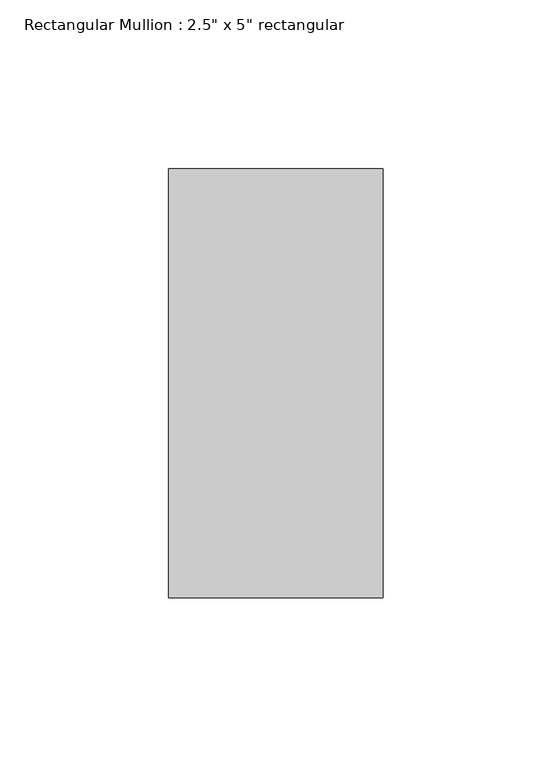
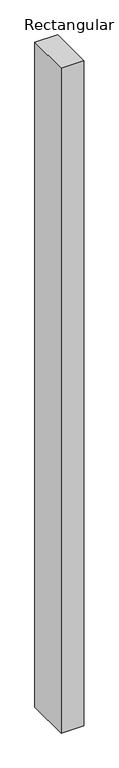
"""IFC4 building model written with IfcOpenShell, lengths in millimetres: member geometry."""

from ifc_helpers import new_model, si_unit, frame, origin, place, context, project, spatial, polyline, outline, extrude, source, transform, mapped, element, save


def member_9e90ae50(model_context):
    return source(origin(), model_context, "Body", "SweptSolid", [
        extrude(outline(polyline([(31.75, 63.5), (31.75, -63.5), (-31.75, -63.5), (-31.75, 63.5), (31.75, 63.5)])), frame((0.0, 0.0, -1968.5), z_axis=(0.0, 0.0, 1.0), x_axis=(1.0, 0.0, 0.0)), (0.0, 0.0, 1.0), 1968.5),
    ])


if __name__ == "__main__":
    model = new_model("IFC4")
    model_context = context("Model", 3, world=origin())
    ifc_project = project(units=[si_unit("LENGTHUNIT", "METRE", prefix="MILLI")], contexts=[model_context])
    site = spatial("IfcSite", under=ifc_project)
    building = spatial("IfcBuilding", under=site)
    placement = place(None, origin())
    member_shape = member_9e90ae50(model_context)
    element("IfcMember", 1, ObjectType="Rectangular Mullion : 2.5\" x 5\" rectangular", at=placement, inside=building, context=model_context, shape_type="MappedRepresentation", body=[
        mapped(member_shape, transform((0.0, 0.0, 0.0), x_axis=(1.0, 0.0, 0.0), y_axis=(0.0, 1.0, 0.0), z_axis=(0.0, 0.0, 1.0))),
    ])
    save(model, "model.ifc")
